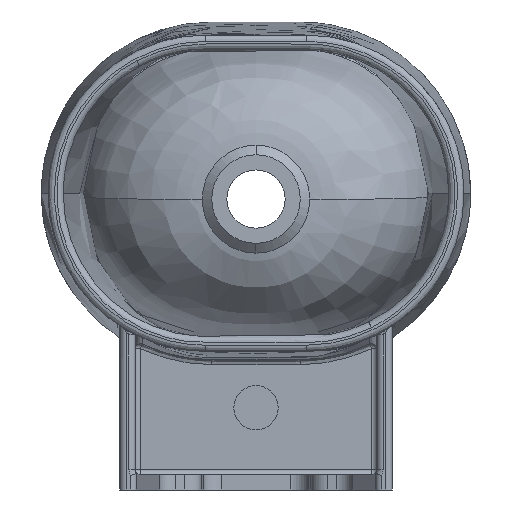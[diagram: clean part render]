
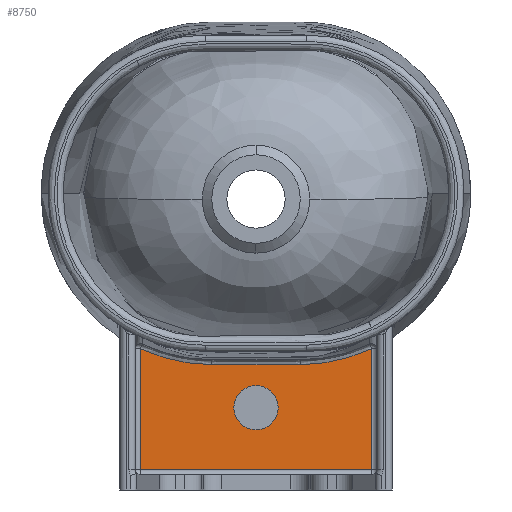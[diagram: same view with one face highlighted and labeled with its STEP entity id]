
A CAD part, front view. The second image highlights one B-rep face of the part: STEP entity #8750.
In plain terms, the highlighted planar face has unit normal (0, -1, 0).
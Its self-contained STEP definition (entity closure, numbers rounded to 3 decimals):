
#69 = CARTESIAN_POINT ( 'NONE',  ( 27.791, -12., -135.54 ) ) ;
#212 = CARTESIAN_POINT ( 'NONE',  ( -35.105, -12., -135.496 ) ) ;
#914 = CARTESIAN_POINT ( 'NONE',  ( 73.4, -12., -129.746 ) ) ;
#1309 = VERTEX_POINT ( 'NONE', #36519 ) ;
#1691 = DIRECTION ( 'NONE',  ( 0., 0., -1. ) ) ;
#2416 = ORIENTED_EDGE ( 'NONE', *, *, #11233, .T. ) ;
#2693 = VERTEX_POINT ( 'NONE', #19271 ) ;
#3042 = CARTESIAN_POINT ( 'NONE',  ( -61.647, -12., -132.659 ) ) ;
#3145 = CARTESIAN_POINT ( 'NONE',  ( 35.105, -12., -135.496 ) ) ;
#3252 = VERTEX_POINT ( 'NONE', #12730 ) ;
#3562 = CARTESIAN_POINT ( 'NONE',  ( 20.478, -12., -135.575 ) ) ;
#4137 = LINE ( 'NONE', #43474, #13440 ) ;
#4215 = EDGE_CURVE ( 'NONE', #19606, #23875, #25416, .T. ) ;
#4326 = CARTESIAN_POINT ( 'NONE',  ( 95.5, -12., -218.5 ) ) ;
#4414 = CARTESIAN_POINT ( 'NONE',  ( 61.624, -12., -132.664 ) ) ;
#5088 = EDGE_CURVE ( 'NONE', #23875, #19606, #39552, .T. ) ;
#5861 = B_SPLINE_CURVE_WITH_KNOTS ( 'NONE', 3,
 ( #37765, #13404, #41236, #20390, #44660, #23907, #3042, #27421, #6553, #30919, #10062, #34435 ),
 .UNSPECIFIED., .F., .F.,
 ( 4, 2, 2, 2, 2, 4 ),
 ( 0., 0.015, 0.022, 0.029, 0.044, 0.058 ),
 .UNSPECIFIED. ) ;
#6294 = ORIENTED_EDGE ( 'NONE', *, *, #34613, .T. ) ;
#6334 = DIRECTION ( 'NONE',  ( 0., 1., 0. ) ) ;
#6379 = CARTESIAN_POINT ( 'NONE',  ( -35.105, -12., -135.496 ) ) ;
#6553 = CARTESIAN_POINT ( 'NONE',  ( -73.414, -12., -129.742 ) ) ;
#7076 = CARTESIAN_POINT ( 'NONE',  ( 0., -12., -135.627 ) ) ;
#7926 = CARTESIAN_POINT ( 'NONE',  ( 54.443, -12., -133.952 ) ) ;
#8750 = ADVANCED_FACE ( 'NONE', ( #22563, #13337 ), #44028, .F. ) ;
#9295 = EDGE_LOOP ( 'NONE', ( #6294, #42448, #2416, #26682, #11727, #25508 ) ) ;
#9849 = AXIS2_PLACEMENT_3D ( 'NONE', #15682, #40027, #19186 ) ;
#10062 = CARTESIAN_POINT ( 'NONE',  ( -87.078, -12., -124.832 ) ) ;
#10581 = CARTESIAN_POINT ( 'NONE',  ( -20.478, -12., -135.575 ) ) ;
#11233 = EDGE_CURVE ( 'NONE', #18492, #1309, #5861, .T. ) ;
#11283 = CARTESIAN_POINT ( 'NONE',  ( 89.29, -12., -123.808 ) ) ;
#11429 = CARTESIAN_POINT ( 'NONE',  ( 44.818, -12., -135.137 ) ) ;
#11657 = B_SPLINE_CURVE_WITH_KNOTS ( 'NONE', 3,
 ( #14783, #11283, #18277, #42599, #21767, #914, #25284, #4414, #28790, #7926, #32292, #11429, #35805, #14925 ),
 .UNSPECIFIED., .F., .F.,
 ( 4, 2, 2, 2, 2, 2, 4 ),
 ( 0., 0.007, 0.015, 0.029, 0.037, 0.044, 0.058 ),
 .UNSPECIFIED. ) ;
#11727 = ORIENTED_EDGE ( 'NONE', *, *, #37803, .T. ) ;
#12730 = CARTESIAN_POINT ( 'NONE',  ( -91.5, -12., -218.5 ) ) ;
#12897 = DIRECTION ( 'NONE',  ( 0., 1., 0. ) ) ;
#13337 = FACE_BOUND ( 'NONE', #20992, .T. ) ;
#13404 = CARTESIAN_POINT ( 'NONE',  ( -39.977, -12., -135.445 ) ) ;
#13440 = VECTOR ( 'NONE', #22673, 1000. ) ;
#13527 = LINE ( 'NONE', #43344, #21647 ) ;
#13661 = VERTEX_POINT ( 'NONE', #3145 ) ;
#14073 = CARTESIAN_POINT ( 'NONE',  ( -27.791, -12., -135.54 ) ) ;
#14783 = CARTESIAN_POINT ( 'NONE',  ( 91.5, -12., -122.785 ) ) ;
#14925 = CARTESIAN_POINT ( 'NONE',  ( 35.105, -12., -135.496 ) ) ;
#15682 = CARTESIAN_POINT ( 'NONE',  ( 0., -12., -169.5 ) ) ;
#17427 = CARTESIAN_POINT ( 'NONE',  ( 33.642, -12., -135.506 ) ) ;
#17575 = CARTESIAN_POINT ( 'NONE',  ( -32.179, -12., -135.515 ) ) ;
#18277 = CARTESIAN_POINT ( 'NONE',  ( 87.055, -12., -124.771 ) ) ;
#18492 = VERTEX_POINT ( 'NONE', #6379 ) ;
#18498 = VECTOR ( 'NONE', #35716, 1000. ) ;
#19186 = DIRECTION ( 'NONE',  ( 0., 0., 1. ) ) ;
#19271 = CARTESIAN_POINT ( 'NONE',  ( 91.5, -12., -122.785 ) ) ;
#19381 = VERTEX_POINT ( 'NONE', #29922 ) ;
#19558 = CARTESIAN_POINT ( 'NONE',  ( 0., -12., -187. ) ) ;
#19606 = VERTEX_POINT ( 'NONE', #19558 ) ;
#20390 = CARTESIAN_POINT ( 'NONE',  ( -52.055, -12., -134.294 ) ) ;
#20910 = CARTESIAN_POINT ( 'NONE',  ( 29.985, -12., -135.528 ) ) ;
#20992 = EDGE_LOOP ( 'NONE', ( #22310, #34146 ) ) ;
#21059 = CARTESIAN_POINT ( 'NONE',  ( -34.374, -12., -135.503 ) ) ;
#21647 = VECTOR ( 'NONE', #1691, 1000. ) ;
#21767 = CARTESIAN_POINT ( 'NONE',  ( 80.277, -12., -127.411 ) ) ;
#22310 = ORIENTED_EDGE ( 'NONE', *, *, #4215, .T. ) ;
#22563 = FACE_OUTER_BOUND ( 'NONE', #9295, .T. ) ;
#22673 = DIRECTION ( 'NONE',  ( 0., 0., 1. ) ) ;
#22900 = EDGE_CURVE ( 'NONE', #13661, #18492, #23699, .T. ) ;
#23699 = B_SPLINE_CURVE_WITH_KNOTS ( 'NONE', 3,
 ( #25005, #39002, #17427, #41761, #20910, #69, #24427, #3562, #27941, #7076, #31439, #10581, #34952, #14073, #38428, #17575, #41907, #21059, #212 ),
 .UNSPECIFIED., .F., .F.,
 ( 4, 2, 1, 2, 2, 1, 2, 2, 1, 2, 4 ),
 ( 0., 0.002, 0.004, 0.009, 0.018, 0.035, 0.053, 0.061, 0.066, 0.068, 0.07 ),
 .UNSPECIFIED. ) ;
#23875 = VERTEX_POINT ( 'NONE', #26081 ) ;
#23907 = CARTESIAN_POINT ( 'NONE',  ( -59.254, -12., -133.132 ) ) ;
#24427 = CARTESIAN_POINT ( 'NONE',  ( 23.403, -12., -135.562 ) ) ;
#24685 = AXIS2_PLACEMENT_3D ( 'NONE', #27205, #6334, #30703 ) ;
#25005 = CARTESIAN_POINT ( 'NONE',  ( 35.105, -12., -135.496 ) ) ;
#25284 = CARTESIAN_POINT ( 'NONE',  ( 68.737, -12., -131.06 ) ) ;
#25416 = CIRCLE ( 'NONE', #24685, 17.5 ) ;
#25508 = ORIENTED_EDGE ( 'NONE', *, *, #26120, .T. ) ;
#26081 = CARTESIAN_POINT ( 'NONE',  ( 0., -12., -152. ) ) ;
#26120 = EDGE_CURVE ( 'NONE', #19381, #2693, #4137, .T. ) ;
#26682 = ORIENTED_EDGE ( 'NONE', *, *, #44696, .T. ) ;
#26764 = CARTESIAN_POINT ( 'NONE',  ( -35., -12., 0. ) ) ;
#27205 = CARTESIAN_POINT ( 'NONE',  ( 0., -12., -169.5 ) ) ;
#27421 = CARTESIAN_POINT ( 'NONE',  ( -68.755, -12., -131.055 ) ) ;
#27797 = LINE ( 'NONE', #4326, #18498 ) ;
#27941 = CARTESIAN_POINT ( 'NONE',  ( 11.702, -12., -135.606 ) ) ;
#28790 = CARTESIAN_POINT ( 'NONE',  ( 59.232, -12., -133.137 ) ) ;
#29922 = CARTESIAN_POINT ( 'NONE',  ( 91.5, -12., -218.5 ) ) ;
#30703 = DIRECTION ( 'NONE',  ( 0., 0., 1. ) ) ;
#30919 = CARTESIAN_POINT ( 'NONE',  ( -82.575, -12., -126.63 ) ) ;
#31439 = CARTESIAN_POINT ( 'NONE',  ( -11.702, -12., -135.606 ) ) ;
#32292 = CARTESIAN_POINT ( 'NONE',  ( 52.042, -12., -134.296 ) ) ;
#34146 = ORIENTED_EDGE ( 'NONE', *, *, #5088, .T. ) ;
#34435 = CARTESIAN_POINT ( 'NONE',  ( -91.5, -12., -122.785 ) ) ;
#34613 = EDGE_CURVE ( 'NONE', #2693, #13661, #11657, .T. ) ;
#34952 = CARTESIAN_POINT ( 'NONE',  ( -23.403, -12., -135.562 ) ) ;
#35716 = DIRECTION ( 'NONE',  ( 1., 0., 0. ) ) ;
#35805 = CARTESIAN_POINT ( 'NONE',  ( 39.975, -12., -135.445 ) ) ;
#36519 = CARTESIAN_POINT ( 'NONE',  ( -91.5, -12., -122.785 ) ) ;
#37266 = DIRECTION ( 'NONE',  ( 0., 0., 1. ) ) ;
#37765 = CARTESIAN_POINT ( 'NONE',  ( -35.105, -12., -135.496 ) ) ;
#37803 = EDGE_CURVE ( 'NONE', #3252, #19381, #27797, .T. ) ;
#38428 = CARTESIAN_POINT ( 'NONE',  ( -29.985, -12., -135.528 ) ) ;
#39002 = CARTESIAN_POINT ( 'NONE',  ( 34.374, -12., -135.503 ) ) ;
#39552 = CIRCLE ( 'NONE', #9849, 17.5 ) ;
#40027 = DIRECTION ( 'NONE',  ( 0., 1., 0. ) ) ;
#41236 = CARTESIAN_POINT ( 'NONE',  ( -44.824, -12., -135.136 ) ) ;
#41614 = AXIS2_PLACEMENT_3D ( 'NONE', #26764, #12897, #37266 ) ;
#41761 = CARTESIAN_POINT ( 'NONE',  ( 32.179, -12., -135.515 ) ) ;
#41907 = CARTESIAN_POINT ( 'NONE',  ( -33.642, -12., -135.506 ) ) ;
#42448 = ORIENTED_EDGE ( 'NONE', *, *, #22900, .T. ) ;
#42599 = CARTESIAN_POINT ( 'NONE',  ( 82.549, -12., -126.572 ) ) ;
#43344 = CARTESIAN_POINT ( 'NONE',  ( -91.5, -12., -222.5 ) ) ;
#43474 = CARTESIAN_POINT ( 'NONE',  ( 91.5, -12., -117.304 ) ) ;
#44028 = PLANE ( 'NONE',  #41614 ) ;
#44660 = CARTESIAN_POINT ( 'NONE',  ( -54.459, -12., -133.949 ) ) ;
#44696 = EDGE_CURVE ( 'NONE', #1309, #3252, #13527, .T. ) ;
